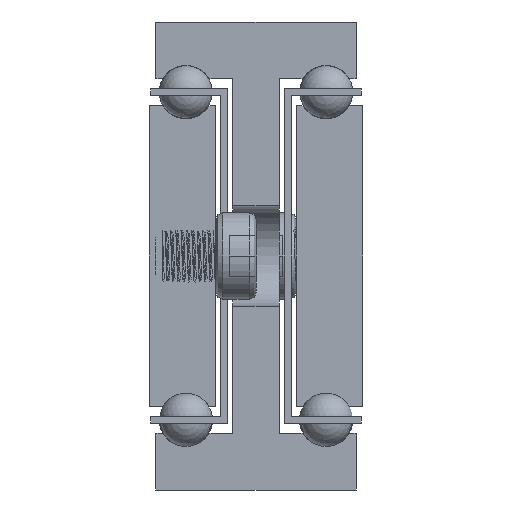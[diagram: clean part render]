
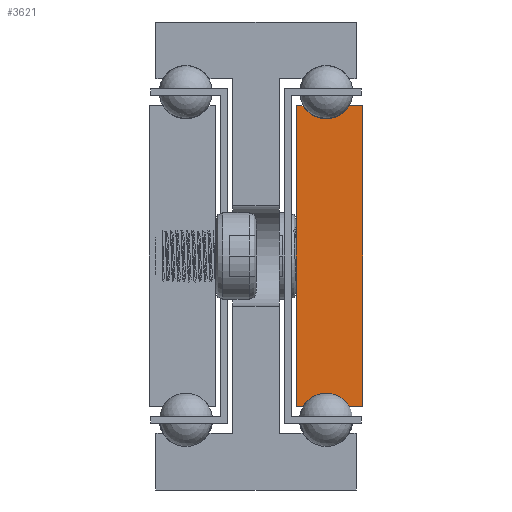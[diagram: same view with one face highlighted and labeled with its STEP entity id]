
A CAD part, front view. The second image highlights one B-rep face of the part: STEP entity #3621.
In plain terms, the highlighted planar face has unit normal (0, -1, 0).
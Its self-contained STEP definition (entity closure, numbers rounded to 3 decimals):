
#381=CIRCLE('',#3904,4.);
#382=CIRCLE('',#3908,4.);
#685=FACE_OUTER_BOUND('',#931,.T.);
#931=EDGE_LOOP('',(#2776,#2777,#2778,#2779,#2780,#2781,#2782,#2783));
#1429=LINE('',#5614,#1641);
#1431=LINE('',#5618,#1643);
#1434=LINE('',#5624,#1646);
#1435=LINE('',#5626,#1647);
#1436=LINE('',#5630,#1648);
#1437=LINE('',#5631,#1649);
#1641=VECTOR('',#4481,1.);
#1643=VECTOR('',#4485,1.);
#1646=VECTOR('',#4490,1.);
#1647=VECTOR('',#4491,1.);
#1648=VECTOR('',#4494,1.);
#1649=VECTOR('',#4495,1.);
#1834=VERTEX_POINT('',#5602);
#1837=VERTEX_POINT('',#5607);
#1839=VERTEX_POINT('',#5612);
#1840=VERTEX_POINT('',#5617);
#1842=VERTEX_POINT('',#5623);
#1843=VERTEX_POINT('',#5625);
#1844=VERTEX_POINT('',#5627);
#1845=VERTEX_POINT('',#5629);
#2239=EDGE_CURVE('',#1834,#1837,#381,.T.);
#2241=EDGE_CURVE('',#1837,#1839,#1429,.T.);
#2243=EDGE_CURVE('',#1840,#1834,#1431,.T.);
#2246=EDGE_CURVE('',#1839,#1842,#1434,.T.);
#2247=EDGE_CURVE('',#1842,#1843,#1435,.T.);
#2248=EDGE_CURVE('',#1843,#1844,#382,.T.);
#2249=EDGE_CURVE('',#1844,#1845,#1436,.T.);
#2250=EDGE_CURVE('',#1845,#1840,#1437,.T.);
#2776=ORIENTED_EDGE('',*,*,#2243,.T.);
#2777=ORIENTED_EDGE('',*,*,#2239,.T.);
#2778=ORIENTED_EDGE('',*,*,#2241,.T.);
#2779=ORIENTED_EDGE('',*,*,#2246,.T.);
#2780=ORIENTED_EDGE('',*,*,#2247,.T.);
#2781=ORIENTED_EDGE('',*,*,#2248,.T.);
#2782=ORIENTED_EDGE('',*,*,#2249,.T.);
#2783=ORIENTED_EDGE('',*,*,#2250,.T.);
#3510=PLANE('',#3907);
#3621=ADVANCED_FACE('',(#685),#3510,.T.);
#3904=AXIS2_PLACEMENT_3D('',#5609,#4476,#4477);
#3907=AXIS2_PLACEMENT_3D('',#5622,#4488,#4489);
#3908=AXIS2_PLACEMENT_3D('',#5628,#4492,#4493);
#4476=DIRECTION('center_axis',(0.,1.,0.));
#4477=DIRECTION('ref_axis',(-0.866,0.,0.5));
#4481=DIRECTION('',(1.,0.,0.));
#4485=DIRECTION('',(1.,0.,0.));
#4488=DIRECTION('center_axis',(0.,-1.,0.));
#4489=DIRECTION('ref_axis',(-1.,0.,0.));
#4490=DIRECTION('',(0.,0.,1.));
#4491=DIRECTION('',(-1.,0.,0.));
#4492=DIRECTION('center_axis',(0.,1.,0.));
#4493=DIRECTION('ref_axis',(0.866,0.,-0.5));
#4494=DIRECTION('',(-1.,0.,0.));
#4495=DIRECTION('',(0.,0.,-1.));
#5602=CARTESIAN_POINT('',(-1206.934,123.129,327.5));
#5607=CARTESIAN_POINT('',(-1200.006,123.129,327.5));
#5609=CARTESIAN_POINT('Origin',(-1203.47,123.129,325.5));
#5612=CARTESIAN_POINT('',(-1197.97,123.129,327.5));
#5614=CARTESIAN_POINT('',(-1200.006,123.129,327.5));
#5617=CARTESIAN_POINT('',(-1207.97,123.129,327.5));
#5618=CARTESIAN_POINT('',(-1207.97,123.129,327.5));
#5622=CARTESIAN_POINT('Origin',(-1202.964,123.129,350.));
#5623=CARTESIAN_POINT('',(-1197.97,123.129,372.5));
#5624=CARTESIAN_POINT('',(-1197.97,123.129,327.5));
#5625=CARTESIAN_POINT('',(-1200.006,123.129,372.5));
#5626=CARTESIAN_POINT('',(-1197.97,123.129,372.5));
#5627=CARTESIAN_POINT('',(-1206.934,123.129,372.5));
#5628=CARTESIAN_POINT('Origin',(-1203.47,123.129,374.5));
#5629=CARTESIAN_POINT('',(-1207.97,123.129,372.5));
#5630=CARTESIAN_POINT('',(-1206.934,123.129,372.5));
#5631=CARTESIAN_POINT('',(-1207.97,123.129,372.5));
